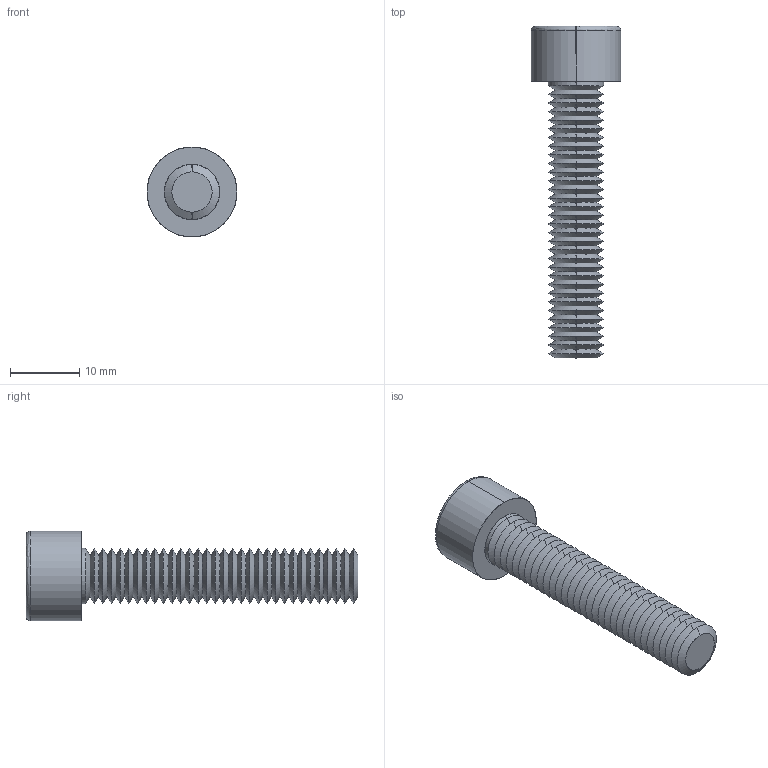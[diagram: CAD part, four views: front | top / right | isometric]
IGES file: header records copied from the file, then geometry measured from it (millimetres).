
Start section: SolidWorks IGES file using analytic representation for surfaces
Global section: file name: C:\Users\ianosborn\Desktop\N0007.91N_v2\N0007.91N_v2_20250519_IGES\91N.080.0400.igs; native system: SolidWorks 2019; preprocessor: SolidWorks 2019; author: IanOsborn; date: 250520.095432; units: millimetre
Bounding box: 13 x 48 x 13 mm (x, y, z)
Surface area: 2412.2 mm2 (no closed solid volume)
Topology: 0 solids, 0 shells, 156 faces, 821 edges, 819 vertices
Faces by surface type: revolution 139, bspline 17
